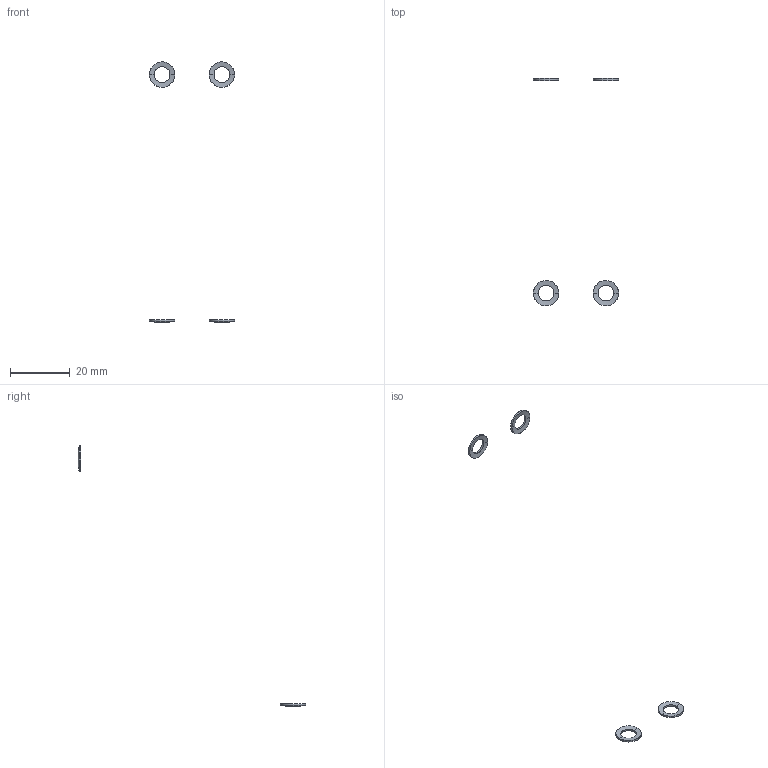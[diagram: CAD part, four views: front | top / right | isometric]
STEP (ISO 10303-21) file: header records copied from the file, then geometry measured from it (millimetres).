
FILE_DESCRIPTION(/* description */ (''),/* implementation_level */ '2;1');
FILE_NAME(/* name */ 'X-26C7~1',/* time_stamp */ '2014-02-14T19:44:28+01:00',/* author */ (''),/* organization */ (''),/* preprocessor_version */ 'ST-DEVELOPER v14',/* originating_system */ '',/* authorisation */ '');
FILE_SCHEMA (('AUTOMOTIVE_DESIGN'));
Length unit declared in the file: millimetre
Products named in the file (2): Document; washer Schnorr-like, lock, M5
Assembly tree (4 placements, depth 2):
  Document
    washer Schnorr-like, lock, M5  x4
Bounding box: 28.5 x 76.09 x 87.09 mm (x, y, z)
Surface area: 387.9 mm2 (no closed solid volume)
Topology: 0 solids, 32 shells, 32 faces, 128 edges, 128 vertices
Faces by surface type: bspline 32
Entity records: 779 total; most frequent: CARTESIAN_POINT 359, B_SPLINE_CURVE_WITH_KNOTS 48, ORIENTED_EDGE 32, PCURVE 32, DEFINITIONAL_REPRESENTATION 32, SURFACE_CURVE 32, EDGE_CURVE 32, VERTEX_POINT 32
